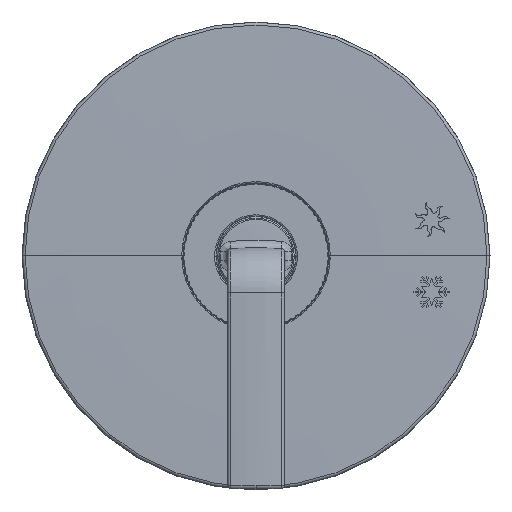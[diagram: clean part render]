
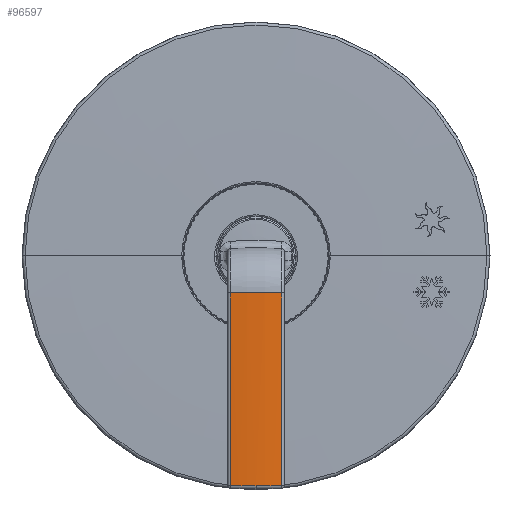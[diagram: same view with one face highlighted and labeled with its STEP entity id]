
A CAD part, top view. The second image highlights one B-rep face of the part: STEP entity #96597.
In plain terms, the highlighted cylindrical face has radius 100.25 mm (diameter 200.5 mm), a partial arc.
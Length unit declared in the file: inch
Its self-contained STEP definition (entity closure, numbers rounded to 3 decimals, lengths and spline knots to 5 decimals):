
#31 = CARTESIAN_POINT ( 'NONE',  ( 0.51181, -1.26327, -0.3579 ) ) ;
#1463 = VERTEX_POINT ( 'NONE', #58401 ) ;
#5908 = DIRECTION ( 'NONE',  ( -1., 0., 0. ) ) ;
#6569 = ORIENTED_EDGE ( 'NONE', *, *, #37046, .T. ) ;
#6859 = CARTESIAN_POINT ( 'NONE',  ( 0.51181, -1.26327, 0.3579 ) ) ;
#11379 = CIRCLE ( 'NONE', #93591, 3.94685 ) ;
#12461 = DIRECTION ( 'NONE',  ( -1., 0., 0. ) ) ;
#12475 = CARTESIAN_POINT ( 'NONE',  ( 0.51181, 2.66732, 0. ) ) ;
#13337 = CYLINDRICAL_SURFACE ( 'NONE', #44563, 3.94685 ) ;
#13792 = ORIENTED_EDGE ( 'NONE', *, *, #34422, .F. ) ;
#14562 = EDGE_CURVE ( 'NONE', #1463, #85016, #74681, .T. ) ;
#15640 = EDGE_LOOP ( 'NONE', ( #6569, #42817, #93208, #13792, #61572 ) ) ;
#18855 = CIRCLE ( 'NONE', #26681, 3.94685 ) ;
#25789 = EDGE_CURVE ( 'NONE', #34243, #93964, #30322, .T. ) ;
#26681 = AXIS2_PLACEMENT_3D ( 'NONE', #41302, #12461, #49110 ) ;
#27112 = CIRCLE ( 'NONE', #48971, 3.94685 ) ;
#27653 = DIRECTION ( 'NONE',  ( 0., 0., -1. ) ) ;
#30322 = LINE ( 'NONE', #31, #61092 ) ;
#34243 = VERTEX_POINT ( 'NONE', #78384 ) ;
#34422 = EDGE_CURVE ( 'NONE', #34243, #85016, #11379, .T. ) ;
#37046 = EDGE_CURVE ( 'NONE', #93964, #75381, #27112, .T. ) ;
#41302 = CARTESIAN_POINT ( 'NONE',  ( 3.18898, 2.66732, 0. ) ) ;
#42817 = ORIENTED_EDGE ( 'NONE', *, *, #63331, .T. ) ;
#43135 = CARTESIAN_POINT ( 'NONE',  ( 0.51181, 2.66732, 0. ) ) ;
#44563 = AXIS2_PLACEMENT_3D ( 'NONE', #43135, #88484, #72885 ) ;
#44935 = CARTESIAN_POINT ( 'NONE',  ( 3.18898, 2.66732, 0. ) ) ;
#45063 = CARTESIAN_POINT ( 'NONE',  ( 0.51181, -1.26327, 0.3579 ) ) ;
#48334 = CARTESIAN_POINT ( 'NONE',  ( 3.18898, -1.26327, -0.3579 ) ) ;
#48971 = AXIS2_PLACEMENT_3D ( 'NONE', #44935, #5908, #66872 ) ;
#49110 = DIRECTION ( 'NONE',  ( 0., -1., 0. ) ) ;
#50448 = FACE_OUTER_BOUND ( 'NONE', #15640, .T. ) ;
#58401 = CARTESIAN_POINT ( 'NONE',  ( 3.18898, -1.26327, 0.3579 ) ) ;
#61092 = VECTOR ( 'NONE', #74710, 39.37008 ) ;
#61572 = ORIENTED_EDGE ( 'NONE', *, *, #25789, .T. ) ;
#63331 = EDGE_CURVE ( 'NONE', #75381, #1463, #18855, .T. ) ;
#65904 = DIRECTION ( 'NONE',  ( -1., 0., 0. ) ) ;
#66872 = DIRECTION ( 'NONE',  ( 0., -1., 0. ) ) ;
#72885 = DIRECTION ( 'NONE',  ( 0., 1., 0. ) ) ;
#74681 = LINE ( 'NONE', #6859, #83973 ) ;
#74710 = DIRECTION ( 'NONE',  ( 1., 0., 0. ) ) ;
#75381 = VERTEX_POINT ( 'NONE', #81619 ) ;
#78384 = CARTESIAN_POINT ( 'NONE',  ( 0.51181, -1.26327, -0.3579 ) ) ;
#81619 = CARTESIAN_POINT ( 'NONE',  ( 3.18898, -1.27953, 0. ) ) ;
#83973 = VECTOR ( 'NONE', #65904, 39.37008 ) ;
#85016 = VERTEX_POINT ( 'NONE', #45063 ) ;
#88484 = DIRECTION ( 'NONE',  ( 1., 0., 0. ) ) ;
#93208 = ORIENTED_EDGE ( 'NONE', *, *, #14562, .T. ) ;
#93591 = AXIS2_PLACEMENT_3D ( 'NONE', #12475, #94470, #27653 ) ;
#93964 = VERTEX_POINT ( 'NONE', #48334 ) ;
#94470 = DIRECTION ( 'NONE',  ( -1., 0., 0. ) ) ;
#96597 = ADVANCED_FACE ( 'NONE', ( #50448 ), #13337, .T. ) ;
